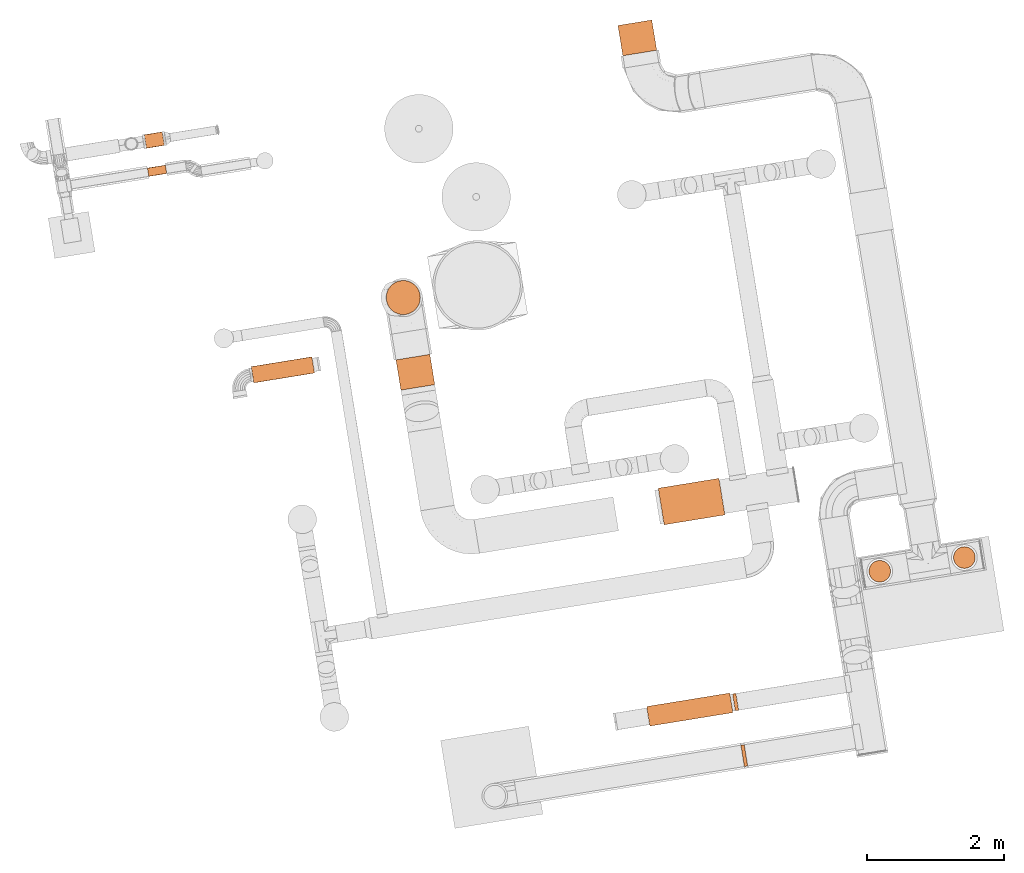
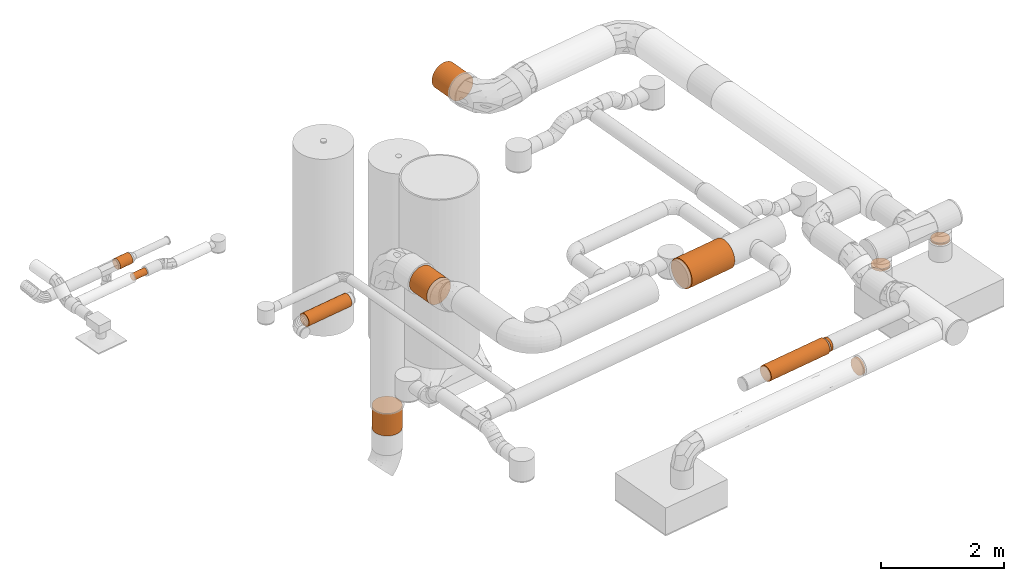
# One storey, part 39 of 39: 12 proxies.
"""IFC2X3 building model written with IfcOpenShell, lengths in millimetres."""

from ifc_helpers import new_model, entity, si_unit, converted_unit, derived_unit, direction, frame, frame_2d, origin, origin_with_axes, place, context, subcontext, project, spatial, circle, extrude, source, transform, mapped, material, type_object, element, save


model = new_model("IFC2X3")

# Units and contexts
model_context = context("Model", 3, precision=0.01, world=origin(), true_north=direction((6.12323399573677e-17, 1.0)))
plan_context = context("Plan", 3, precision=1e-05, world=origin_with_axes())
body_context = subcontext(model_context, "Body", "Model", "MODEL_VIEW")
ifc_project = project(units=[converted_unit("PLANEANGLEUNIT", "DEGREE", entity("IfcPositiveLengthMeasure", 0.0174532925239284), si_unit("PLANEANGLEUNIT", "RADIAN"), dimensions=[0, 0, 0, 0, 0, 0, 0]), si_unit("AREAUNIT", "SQUARE_METRE"), si_unit("LENGTHUNIT", "METRE", prefix="MILLI"), si_unit("MASSUNIT", "GRAM", prefix="KILO"), si_unit("POWERUNIT", "WATT"), si_unit("PRESSUREUNIT", "PASCAL", prefix="KILO"), si_unit("FORCEUNIT", "NEWTON", prefix="KILO"), si_unit("ELECTRICVOLTAGEUNIT", "VOLT"), si_unit("ELECTRICCURRENTUNIT", "AMPERE"), si_unit("THERMODYNAMICTEMPERATUREUNIT", "DEGREE_CELSIUS"), si_unit("TIMEUNIT", "SECOND"), si_unit("VOLUMEUNIT", "CUBIC_METRE"), derived_unit("LINEARVELOCITYUNIT", [(si_unit("LENGTHUNIT", "METRE"), 1), (si_unit("TIMEUNIT", "SECOND"), -1)]), derived_unit("VOLUMETRICFLOWRATEUNIT", [(si_unit("VOLUMEUNIT", "CUBIC_METRE"), 1), (si_unit("TIMEUNIT", "SECOND"), -1)]), derived_unit("THERMALTRANSMITTANCEUNIT", [(si_unit("POWERUNIT", "WATT"), 1), (si_unit("THERMODYNAMICTEMPERATUREUNIT", "KELVIN"), -1), (si_unit("AREAUNIT", "SQUARE_METRE"), -1)]), derived_unit("SOUNDPRESSUREUNIT", [(si_unit("PRESSUREUNIT", "PASCAL"), 1)])], contexts=[model_context, plan_context])

# Site, building, storey
site_placement = place(None, frame((-0.00071070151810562, 0.00438415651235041, 0.0), z_axis=(0.0, 0.0, 1.0), x_axis=(-0.160236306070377, 0.987078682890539, 0.0)))
site = spatial("IfcSite", under=ifc_project, at=site_placement, Name="Default", CompositionType="ELEMENT")
building_placement = place(site_placement, origin_with_axes())
building = spatial("IfcBuilding", under=site, at=building_placement, CompositionType="ELEMENT")
storey_placement = place(building_placement, frame((0.0, 0.0, 50999.9999999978), z_axis=(0.0, 0.0, 1.0), x_axis=(1.0, 0.0, 0.0)))
storey = spatial("IfcBuildingStorey", under=building, at=storey_placement, Name="Nivå D", CompositionType="ELEMENT", Elevation=50999.9999999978)

# Proxies
ifc_material = material(Name="<Unnamed>")
building_element_proxy_type_1 = type_object("IfcBuildingElementProxyType", Name="BRANNSPJELD - 1 - SZ06T:BRANNSPJELD -C-EI120-500 - SZ06T", PredefinedType="NOTDEFINED", material=ifc_material)
shared_shape_1 = source(origin(), body_context, "Body", "SweptSolid", [
    extrude(circle(Radius=248.0, at=frame_2d((4.80003948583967e-16, -4.00655054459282e-13), x_axis=(1.0, 0.0))), frame((-221.5, 0.0, 0.0), z_axis=(1.0, 0.0, 0.0), x_axis=(0.0, 1.0, 0.0)), (0.0, 0.0, 1.0), 443.000000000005),
])
proxy_1_placement = place(storey_placement, frame((776624.566038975, -595037.180498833, -48.25), z_axis=(1.0, 0.0, 0.0), x_axis=(0.0, 0.0, 1.0)))
element("IfcBuildingElementProxy", 1, at=proxy_1_placement, inside=storey, type_object=building_element_proxy_type_1, material=ifc_material, Name="BRANNSPJELD - 1 - SZ06T:BRANNSPJELD -C-EI120-500 - SZ06T", ObjectType="BRANNSPJELD - 1 - SZ06T:BRANNSPJELD -C-EI120-500 - SZ06T", context=body_context, shape_type="MappedRepresentation", body=[
    mapped(shared_shape_1, transform((0.0, 0.0, 0.0), scale=1.0)),
])
building_element_proxy_type_2 = type_object("IfcBuildingElementProxyType", Name="BRANNSPJELD -  - SZ011T:BRANNSPJELD -C-EI60-500 - SZ011T", PredefinedType="NOTDEFINED", material=ifc_material)
shared_shape_2 = source(origin(), body_context, "Body", "SweptSolid", [
    extrude(circle(Radius=250.0, at=frame_2d((1.51305301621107e-14, -4.03886143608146e-13), x_axis=(1.0, 0.0))), frame((-223.5, 0.0, 0.0), z_axis=(1.0, 0.0, 0.0), x_axis=(0.0, 1.0, 0.0)), (0.0, 0.0, 1.0), 447.0),
])
for number, where, z_axis, x_axis in (
    (2, (775520.869644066, -595037.180498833, 3150.0), (0.0, 0.0, 1.0), (-1.0, 0.0, 0.0)),
    (3, (779815.119644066, -599012.905078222, 3100.0), (0.0, 0.0, 1.0), (1.0, 0.0, 0.0)),
):
    element("IfcBuildingElementProxy", number, at=place(storey_placement, frame(where, z_axis=z_axis, x_axis=x_axis)), inside=storey, type_object=building_element_proxy_type_2, material=ifc_material, Name="BRANNSPJELD -  - SZ011T:BRANNSPJELD -C-EI60-500 - SZ011T", ObjectType="BRANNSPJELD -  - SZ011T:BRANNSPJELD -C-EI60-500 - SZ011T", context=body_context, shape_type="MappedRepresentation", body=[
        mapped(shared_shape_2, transform((0.0, 0.0, 0.0), scale=1.0)),
    ])
building_element_proxy_type_3 = type_object("IfcBuildingElementProxyType", Name="BRANNSPJELD -  - SZ011T:BRANNSPJELD -C-EI60-125 - SZ011T", PredefinedType="NOTDEFINED", material=ifc_material)
shared_shape_3 = source(origin(), body_context, "Body", "SweptSolid", [
    extrude(circle(Radius=62.4999999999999, at=frame_2d((3.44740902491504e-15, -1.00971535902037e-13), x_axis=(1.0, 0.0))), frame((-132.5, 0.0, 0.0), z_axis=(1.0, 0.0, 0.0), x_axis=(0.0, 1.0, 0.0)), (0.0, 0.0, 1.0), 265.0),
])
proxy_2_placement = place(storey_placement, frame((779024.265974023, -591790.251649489, 2900.00830141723), z_axis=(1.06493205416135e-32, -9.15513738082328e-06, 0.999999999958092), x_axis=(5.55111512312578e-17, -0.999999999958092, -9.15513738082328e-06)))
element("IfcBuildingElementProxy", 4, at=proxy_2_placement, inside=storey, type_object=building_element_proxy_type_3, material=ifc_material, Name="BRANNSPJELD -  - SZ011T:BRANNSPJELD -C-EI60-125 - SZ011T", ObjectType="BRANNSPJELD -  - SZ011T:BRANNSPJELD -C-EI60-125 - SZ011T", context=body_context, shape_type="MappedRepresentation", body=[
    mapped(shared_shape_3, transform((0.0, 0.0, 0.0), scale=1.0)),
])
building_element_proxy_type_4 = type_object("IfcBuildingElementProxyType", Name="BRANNSPJELD -  - SZ011T:BRANNSPJELD -C-EI60-200 - SZ011T", PredefinedType="NOTDEFINED", material=ifc_material)
shared_shape_4 = source(origin(), body_context, "Body", "SweptSolid", [
    extrude(circle(Radius=100.0, at=frame_2d((-7.61390950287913e-15, -1.61554457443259e-13), x_axis=(1.0, 0.0))), frame((-132.5, 0.0, 0.0), z_axis=(1.0, 0.0, 0.0), x_axis=(0.0, 1.0, 0.0)), (0.0, 0.0, 1.0), 265.0),
])
proxy_3_placement = place(storey_placement, frame((779472.619644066, -591821.98173883, 2903.07848), z_axis=(0.0, 0.0, 1.0), x_axis=(0.0, 1.0, 0.0)))
element("IfcBuildingElementProxy", 5, at=proxy_3_placement, inside=storey, type_object=building_element_proxy_type_4, material=ifc_material, Name="BRANNSPJELD -  - SZ011T:BRANNSPJELD -C-EI60-200 - SZ011T", ObjectType="BRANNSPJELD -  - SZ011T:BRANNSPJELD -C-EI60-200 - SZ011T", context=body_context, shape_type="MappedRepresentation", body=[
    mapped(shared_shape_4, transform((0.0, 0.0, 0.0), scale=1.0)),
])
building_element_proxy_type_5 = type_object("IfcBuildingElementProxyType", Name="INNREGULERINGSPJELD -  - SR001T:INNREGULERINGSPJELD - IRIS-025 - SR001T", PredefinedType="NOTDEFINED", material=ifc_material)
shared_shape_5 = source(origin(), body_context, "Body", "SweptSolid", [
    extrude(circle(Radius=125.0, at=frame_2d((-4.64813372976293e-15, -5.62765554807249e-13), x_axis=(1.0, 0.0))), frame((-24.0, 0.0, 0.0), z_axis=(1.0, 0.0, 0.0), x_axis=(0.0, 0.0, -1.0)), (0.0, 0.0, 1.0), 47.9999999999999),
])
proxy_4_placement = place(storey_placement, frame((770024.832653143, -598875.480498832, 3250.0), z_axis=(0.0, 0.0, 1.0), x_axis=(0.0, -1.0, 0.0)))
element("IfcBuildingElementProxy", 6, at=proxy_4_placement, inside=storey, type_object=building_element_proxy_type_5, material=ifc_material, Name="INNREGULERINGSPJELD -  - SR001T:INNREGULERINGSPJELD - IRIS-025 - SR001T", ObjectType="INNREGULERINGSPJELD -  - SR001T:INNREGULERINGSPJELD - IRIS-025 - SR001T", context=body_context, shape_type="MappedRepresentation", body=[
    mapped(shared_shape_5, transform((0.0, 0.0, 0.0), scale=1.0)),
])
building_element_proxy_type_6 = type_object("IfcBuildingElementProxyType", Name="LYDDEMPER -  - QL007T:LYDDEMPER - 250-1200 - QL007T", PredefinedType="NOTDEFINED", material=ifc_material)
shared_shape_6 = source(origin(), body_context, "Body", "SweptSolid", [
    extrude(circle(Radius=145.0, at=frame_2d((-4.46011175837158e-17, -2.34253963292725e-13), x_axis=(1.0, 0.0))), frame((-613.0, 0.0, 0.0), z_axis=(1.0, 0.0, 0.0), x_axis=(0.0, 0.0, 1.0)), (0.0, 0.0, 1.0), 1226.0),
])
proxy_5_placement = place(storey_placement, frame((770024.832653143, -598198.692788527, 3250.0), z_axis=(0.0, 0.0, 1.0), x_axis=(0.0, 1.0, 0.0)))
element("IfcBuildingElementProxy", 7, at=proxy_5_placement, inside=storey, type_object=building_element_proxy_type_6, material=ifc_material, Name="LYDDEMPER -  - QL007T:LYDDEMPER - 250-1200 - QL007T", ObjectType="LYDDEMPER -  - QL007T:LYDDEMPER - 250-1200 - QL007T", context=body_context, shape_type="MappedRepresentation", body=[
    mapped(shared_shape_6, transform((0.0, 0.0, 0.0), scale=1.0)),
])
building_element_proxy_type_7 = type_object("IfcBuildingElementProxyType", Name="INNREGULERINGSPJELD -  - SR001T:INNREGULERINGSPJELD - IRIS-031 - SR001T", PredefinedType="NOTDEFINED", material=ifc_material)
shared_shape_7 = source(origin(), body_context, "Body", "SweptSolid", [
    extrude(circle(Radius=157.5, at=frame_2d((-4.64813372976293e-15, -7.09084599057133e-13), x_axis=(1.0, 0.0))), frame((-24.0, 0.0, 0.0), z_axis=(1.0, 0.0, 0.0), x_axis=(0.0, 0.0, -1.0)), (0.0, 0.0, 1.0), 47.9999999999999),
])
for number, where, z_axis, x_axis in (
    (8, (769234.832653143, -598875.480498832, 3250.0), (0.0, 0.0, 1.0), (0.0, -1.0, 0.0)),
    (9, (771571.619644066, -602506.055377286, 2903.0000000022), (0.0, -1.0, 0.0), (0.0, 0.0, 1.0)),
    (10, (771571.619644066, -601255.985577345, 2942.0000000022), (0.0, -1.0, 0.0), (0.0, 0.0, 1.0)),
):
    element("IfcBuildingElementProxy", number, at=place(storey_placement, frame(where, z_axis=z_axis, x_axis=x_axis)), inside=storey, type_object=building_element_proxy_type_7, material=ifc_material, Name="INNREGULERINGSPJELD -  - SR001T:INNREGULERINGSPJELD - IRIS-031 - SR001T", ObjectType="INNREGULERINGSPJELD -  - SR001T:INNREGULERINGSPJELD - IRIS-031 - SR001T", context=body_context, shape_type="MappedRepresentation", body=[
        mapped(shared_shape_7, transform((0.0, 0.0, 0.0), scale=1.0)),
    ])
building_element_proxy_type_8 = type_object("IfcBuildingElementProxyType", Name="LYDDEMPER -  - QL006T:LYDDEMPER - 500-900 - QL006T", PredefinedType="NOTDEFINED", material=ifc_material)
shared_shape_8 = source(origin(), body_context, "Body", "SweptSolid", [
    extrude(circle(Radius=270.0, at=frame_2d((-1.47404180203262e-14, -4.36197035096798e-13), x_axis=(1.0, 0.0))), frame((-448.0, 0.0, 0.0), z_axis=(1.0, 0.0, 0.0), x_axis=(0.0, 0.0, 1.0)), (0.0, 0.0, 1.0), 896.0),
])
proxy_6_placement = place(storey_placement, frame((773014.47928963, -598709.980498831, 3310.0), z_axis=(0.0, 0.0, 1.0), x_axis=(0.0, 1.0, 0.0)))
element("IfcBuildingElementProxy", 11, at=proxy_6_placement, inside=storey, type_object=building_element_proxy_type_8, material=ifc_material, Name="LYDDEMPER -  - QL006T:LYDDEMPER - 500-900 - QL006T", ObjectType="LYDDEMPER -  - QL006T:LYDDEMPER - 500-900 - QL006T", context=body_context, shape_type="MappedRepresentation", body=[
    mapped(shared_shape_8, transform((0.0, 0.0, 0.0), scale=1.0)),
])
building_element_proxy_type_9 = type_object("IfcBuildingElementProxyType", Name="LYDDEMPER -  - QL006T:LYDDEMPER - 200-900 - QL006T", PredefinedType="NOTDEFINED", material=ifc_material)
shared_shape_9 = source(origin(), body_context, "Body", "SweptSolid", [
    extrude(circle(Radius=120.0, at=frame_2d((2.17938087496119e-15, -1.9386534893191e-13), x_axis=(1.0, 0.0))), frame((-448.0, 0.0, 0.0), z_axis=(1.0, 0.0, 0.0), x_axis=(0.0, 0.0, 1.0)), (0.0, 0.0, 1.0), 896.0),
])
proxy_7_placement = place(storey_placement, frame((775865.219644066, -593134.963294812, 3310.0), z_axis=(0.0, 0.0, 1.0), x_axis=(0.0, -1.0, 0.0)))
element("IfcBuildingElementProxy", 12, at=proxy_7_placement, inside=storey, type_object=building_element_proxy_type_9, material=ifc_material, Name="LYDDEMPER -  - QL006T:LYDDEMPER - 200-900 - QL006T", ObjectType="LYDDEMPER -  - QL006T:LYDDEMPER - 200-900 - QL006T", context=body_context, shape_type="MappedRepresentation", body=[
    mapped(shared_shape_9, transform((0.0, 0.0, 0.0), scale=1.0)),
])

save(model, "model.ifc")
